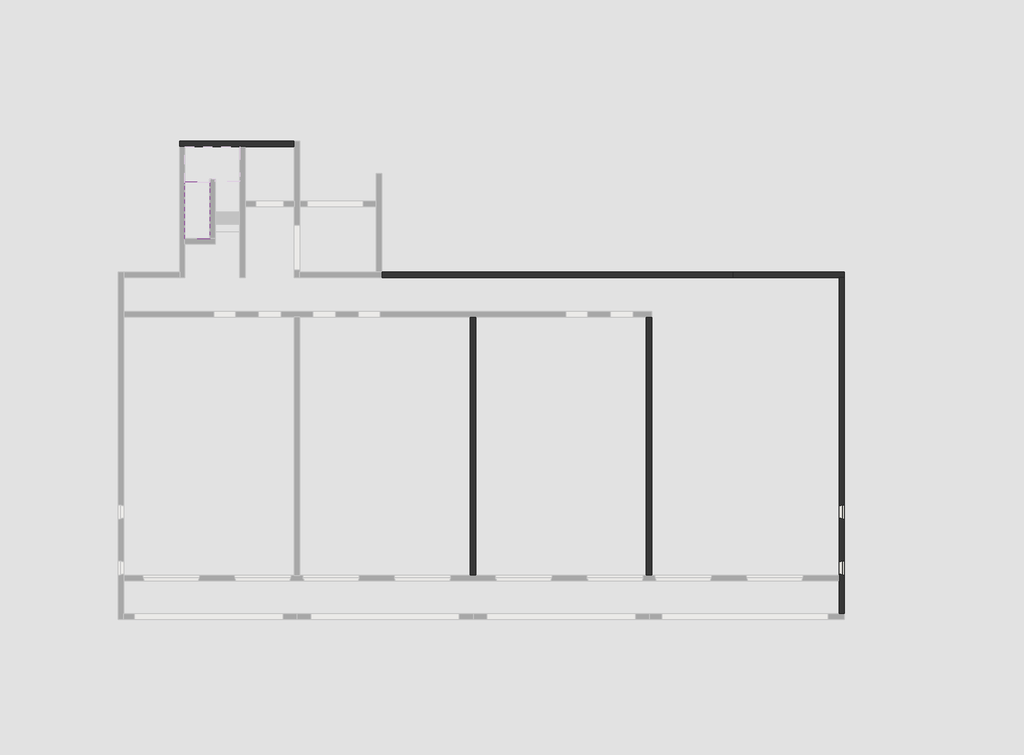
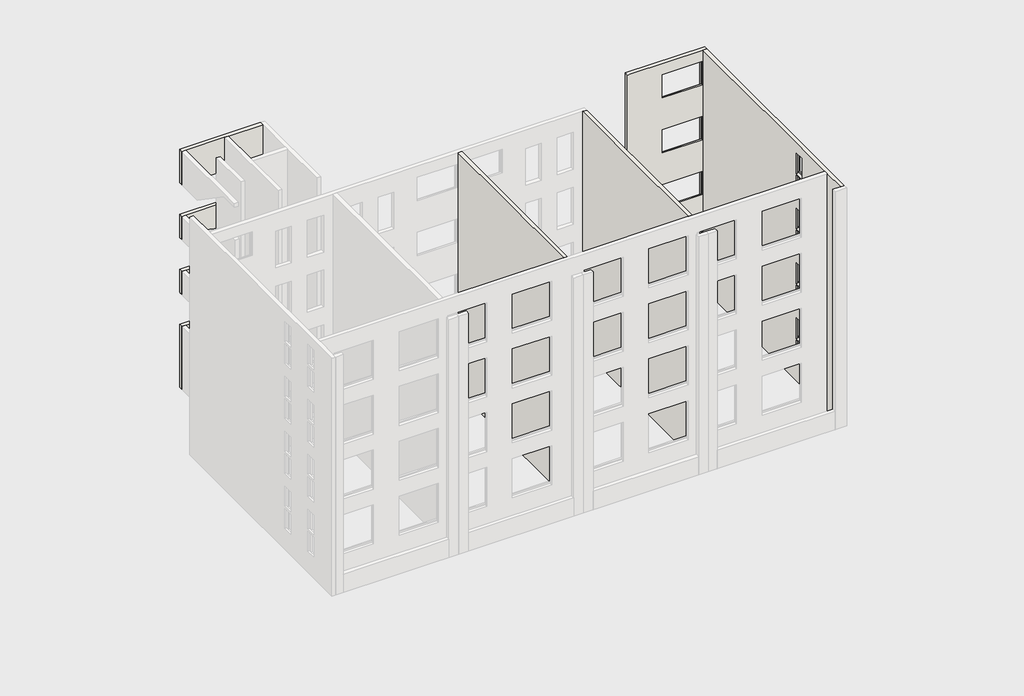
# One storey, part 4 of 5: 6 walls, 1 stair flight.
"""IFC4 building model written with IfcOpenShell, lengths in millimetres."""

from ifc_helpers import new_model, si_unit, frame, origin, origin_with_axes, place, context, project, spatial, polyline, outline, extrude, faceted_brep, element, save

model = new_model("IFC4")

# Units and contexts
model_context = context("Model", 3, world=origin())
ifc_project = project(units=[si_unit("LENGTHUNIT", "METRE", prefix="MILLI")], contexts=[model_context])

# Site, building, storey
site = spatial("IfcSite", under=ifc_project)
building = spatial("IfcBuilding", under=site)
storey = spatial("IfcBuildingStorey", under=building, Name="設計GL", Elevation=0.0)

# Stair flight
placement = place(None, origin())
element("IfcStairFlight", 1, ObjectType="30 mm 踏み板 30 mm 蹴込み板", at=placement, inside=storey, context=model_context, shape_type="SolidModel", body=[
    faceted_brep([(-7928.7187246, -870.1171638, 2508.2352941), (-8828.7187246, -870.1171638, 2508.2352941), (-8828.7187246, -916.2145243, 2508.2352941), (-8828.7187246, -1130.1171638, 2508.2352941), (-7928.7187246, -1130.1171638, 2508.2352941), (-7928.7187246, -916.2145243, 2508.2352941), (-7928.7187246, -1130.1171638, 2326.9474929), (-7928.7187246, -916.2145243, 2181.7647059), (-7928.7187246, -870.1171638, 2181.7647059), (-7928.7187246, -870.1171638, 2331.7647059), (-8828.7187246, -870.1171638, 2181.7647059), (-8828.7187246, -870.1171638, 2331.7647059), (-8828.7187246, -916.2145243, 2181.7647059), (-8828.7187246, -1130.1171638, 2326.9474929), (-7928.7187246, -1390.1171638, 2684.7058824), (-7928.7187246, -1130.1171638, 2684.7058824), (-8828.7187246, -1130.1171638, 2684.7058824), (-8828.7187246, -1390.1171638, 2684.7058824), (-7928.7187246, -1390.1171638, 2503.4180811), (-8828.7187246, -1390.1171638, 2503.4180811), (-7928.7187246, -1650.1171638, 2861.1764706), (-7928.7187246, -1390.1171638, 2861.1764706), (-8828.7187246, -1390.1171638, 2861.1764706), (-8828.7187246, -1650.1171638, 2861.1764706), (-7928.7187246, -1650.1171638, 2679.8886693), (-8828.7187246, -1650.1171638, 2679.8886693), (-7928.7187246, -1910.1171638, 3037.6470588), (-7928.7187246, -1650.1171638, 3037.6470588), (-8828.7187246, -1650.1171638, 3037.6470588), (-8828.7187246, -1910.1171638, 3037.6470588), (-7928.7187246, -1910.1171638, 2856.3592576), (-8828.7187246, -1910.1171638, 2856.3592576), (-7928.7187246, -2170.1171638, 3214.1176471), (-7928.7187246, -1910.1171638, 3214.1176471), (-8828.7187246, -1910.1171638, 3214.1176471), (-8828.7187246, -2170.1171638, 3214.1176471), (-7928.7187246, -2170.1171638, 3032.8298458), (-8828.7187246, -2170.1171638, 3032.8298458), (-7928.7187246, -2430.1171638, 3390.5882353), (-7928.7187246, -2170.1171638, 3390.5882353), (-8828.7187246, -2170.1171638, 3390.5882353), (-8828.7187246, -2430.1171638, 3390.5882353), (-7928.7187246, -2430.1171638, 3209.300434), (-8828.7187246, -2430.1171638, 3209.300434), (-7928.7187246, -2690.1171638, 3567.0588235), (-7928.7187246, -2430.1171638, 3567.0588235), (-8828.7187246, -2430.1171638, 3567.0588235), (-8828.7187246, -2690.1171638, 3567.0588235), (-7928.7187246, -2690.1171638, 3385.7710223), (-8828.7187246, -2690.1171638, 3385.7710223), (-7928.7187246, -2950.1171638, 3743.5294118), (-7928.7187246, -2690.1171638, 3743.5294118), (-8828.7187246, -2690.1171638, 3743.5294118), (-8828.7187246, -2950.1171638, 3743.5294118), (-7928.7187246, -2950.1171638, 3562.2416105), (-8828.7187246, -2950.1171638, 3562.2416105)], [[[0, 1, 2, 3, 4, 5]], [[4, 6, 7, 8, 9, 0, 5]], [[1, 0, 9, 8, 10, 11]], [[1, 11, 10, 12, 13, 3, 2]], [[14, 15, 16, 17]], [[15, 14, 18, 6, 4]], [[16, 15, 4, 3]], [[17, 16, 3, 13, 19]], [[20, 21, 22, 23]], [[21, 20, 24, 18, 14]], [[22, 21, 14, 17]], [[23, 22, 17, 19, 25]], [[26, 27, 28, 29]], [[27, 26, 30, 24, 20]], [[28, 27, 20, 23]], [[29, 28, 23, 25, 31]], [[32, 33, 34, 35]], [[33, 32, 36, 30, 26]], [[34, 33, 26, 29]], [[35, 34, 29, 31, 37]], [[38, 39, 40, 41]], [[39, 38, 42, 36, 32]], [[40, 39, 32, 35]], [[41, 40, 35, 37, 43]], [[44, 45, 46, 47]], [[45, 44, 48, 42, 38]], [[46, 45, 38, 41]], [[47, 46, 41, 43, 49]], [[50, 51, 52, 53]], [[51, 50, 54, 48, 44]], [[52, 51, 44, 47]], [[53, 52, 47, 49, 55]], [[50, 53, 55, 54]], [[12, 7, 6, 18, 24, 30, 36, 42, 48, 54, 55, 49, 43, 37, 31, 25, 19, 13]], [[7, 12, 10, 8]]]),
    extrude(outline(polyline([(-8828.7187246, -870.1171638), (-8828.7187246, -840.1171638), (-7928.7187246, -840.1171638), (-7928.7187246, -870.1171638), (-8828.7187246, -870.1171638)])), frame((0.0, 0.0, 2361.7647059), z_axis=(0.0, 0.0, 1.0), x_axis=(1.0, 0.0, 0.0)), (0.0, 0.0, 1.0), 146.4705882),
    extrude(outline(polyline([(-7928.7187246, -1130.1171638), (-8828.7187246, -1130.1171638), (-8828.7187246, -840.1171638), (-7928.7187246, -840.1171638), (-7928.7187246, -1130.1171638)])), frame((0.0, 0.0, 2508.2352941), z_axis=(0.0, 0.0, 1.0), x_axis=(1.0, 0.0, 0.0)), (0.0, 0.0, 1.0), 30.0),
    extrude(outline(polyline([(-8828.7187246, -1130.1171638), (-8828.7187246, -1100.1171638), (-7928.7187246, -1100.1171638), (-7928.7187246, -1130.1171638), (-8828.7187246, -1130.1171638)])), frame((0.0, 0.0, 2538.2352941), z_axis=(0.0, 0.0, 1.0), x_axis=(1.0, 0.0, 0.0)), (0.0, 0.0, 1.0), 146.4705882),
    extrude(outline(polyline([(-7928.7187246, -1390.1171638), (-8828.7187246, -1390.1171638), (-8828.7187246, -1100.1171638), (-7928.7187246, -1100.1171638), (-7928.7187246, -1390.1171638)])), frame((0.0, 0.0, 2684.7058824), z_axis=(0.0, 0.0, 1.0), x_axis=(1.0, 0.0, 0.0)), (0.0, 0.0, 1.0), 30.0),
    extrude(outline(polyline([(-8828.7187246, -1390.1171638), (-8828.7187246, -1360.1171638), (-7928.7187246, -1360.1171638), (-7928.7187246, -1390.1171638), (-8828.7187246, -1390.1171638)])), frame((0.0, 0.0, 2714.7058824), z_axis=(0.0, 0.0, 1.0), x_axis=(1.0, 0.0, 0.0)), (0.0, 0.0, 1.0), 146.4705882),
    extrude(outline(polyline([(-7928.7187246, -1650.1171638), (-8828.7187246, -1650.1171638), (-8828.7187246, -1360.1171638), (-7928.7187246, -1360.1171638), (-7928.7187246, -1650.1171638)])), frame((0.0, 0.0, 2861.1764706), z_axis=(0.0, 0.0, 1.0), x_axis=(1.0, 0.0, 0.0)), (0.0, 0.0, 1.0), 30.0),
    extrude(outline(polyline([(-8828.7187246, -1650.1171638), (-8828.7187246, -1620.1171638), (-7928.7187246, -1620.1171638), (-7928.7187246, -1650.1171638), (-8828.7187246, -1650.1171638)])), frame((0.0, 0.0, 2891.1764706), z_axis=(0.0, 0.0, 1.0), x_axis=(1.0, 0.0, 0.0)), (0.0, 0.0, 1.0), 146.4705882),
    extrude(outline(polyline([(-7928.7187246, -1910.1171638), (-8828.7187246, -1910.1171638), (-8828.7187246, -1620.1171638), (-7928.7187246, -1620.1171638), (-7928.7187246, -1910.1171638)])), frame((0.0, 0.0, 3037.6470588), z_axis=(0.0, 0.0, 1.0), x_axis=(1.0, 0.0, 0.0)), (0.0, 0.0, 1.0), 30.0),
    extrude(outline(polyline([(-8828.7187246, -1910.1171638), (-8828.7187246, -1880.1171638), (-7928.7187246, -1880.1171638), (-7928.7187246, -1910.1171638), (-8828.7187246, -1910.1171638)])), frame((0.0, 0.0, 3067.6470588), z_axis=(0.0, 0.0, 1.0), x_axis=(1.0, 0.0, 0.0)), (0.0, 0.0, 1.0), 146.4705882),
    extrude(outline(polyline([(-7928.7187246, -2170.1171638), (-8828.7187246, -2170.1171638), (-8828.7187246, -1880.1171638), (-7928.7187246, -1880.1171638), (-7928.7187246, -2170.1171638)])), frame((0.0, 0.0, 3214.1176471), z_axis=(0.0, 0.0, 1.0), x_axis=(1.0, 0.0, 0.0)), (0.0, 0.0, 1.0), 30.0),
    extrude(outline(polyline([(-8828.7187246, -2170.1171638), (-8828.7187246, -2140.1171638), (-7928.7187246, -2140.1171638), (-7928.7187246, -2170.1171638), (-8828.7187246, -2170.1171638)])), frame((0.0, 0.0, 3244.1176471), z_axis=(0.0, 0.0, 1.0), x_axis=(1.0, 0.0, 0.0)), (0.0, 0.0, 1.0), 146.4705882),
    extrude(outline(polyline([(-7928.7187246, -2430.1171638), (-8828.7187246, -2430.1171638), (-8828.7187246, -2140.1171638), (-7928.7187246, -2140.1171638), (-7928.7187246, -2430.1171638)])), frame((0.0, 0.0, 3390.5882353), z_axis=(0.0, 0.0, 1.0), x_axis=(1.0, 0.0, 0.0)), (0.0, 0.0, 1.0), 30.0),
    extrude(outline(polyline([(-8828.7187246, -2430.1171638), (-8828.7187246, -2400.1171638), (-7928.7187246, -2400.1171638), (-7928.7187246, -2430.1171638), (-8828.7187246, -2430.1171638)])), frame((0.0, 0.0, 3420.5882353), z_axis=(0.0, 0.0, 1.0), x_axis=(1.0, 0.0, 0.0)), (0.0, 0.0, 1.0), 146.4705882),
    extrude(outline(polyline([(-7928.7187246, -2690.1171638), (-8828.7187246, -2690.1171638), (-8828.7187246, -2400.1171638), (-7928.7187246, -2400.1171638), (-7928.7187246, -2690.1171638)])), frame((0.0, 0.0, 3567.0588235), z_axis=(0.0, 0.0, 1.0), x_axis=(1.0, 0.0, 0.0)), (0.0, 0.0, 1.0), 30.0),
    extrude(outline(polyline([(-8828.7187246, -2690.1171638), (-8828.7187246, -2660.1171638), (-7928.7187246, -2660.1171638), (-7928.7187246, -2690.1171638), (-8828.7187246, -2690.1171638)])), frame((0.0, 0.0, 3597.0588235), z_axis=(0.0, 0.0, 1.0), x_axis=(1.0, 0.0, 0.0)), (0.0, 0.0, 1.0), 146.4705882),
    extrude(outline(polyline([(-8828.7187246, -2950.1171638), (-8828.7187246, -2920.1171638), (-7928.7187246, -2920.1171638), (-7928.7187246, -2950.1171638), (-8828.7187246, -2950.1171638)])), frame((0.0, 0.0, 3773.5294118), z_axis=(0.0, 0.0, 1.0), x_axis=(1.0, 0.0, 0.0)), (0.0, 0.0, 1.0), 146.4705882),
    extrude(outline(polyline([(-7928.7187246, -2950.1171638), (-8828.7187246, -2950.1171638), (-8828.7187246, -2660.1171638), (-7928.7187246, -2660.1171638), (-7928.7187246, -2950.1171638)])), frame((0.0, 0.0, 3743.5294118), z_axis=(0.0, 0.0, 1.0), x_axis=(1.0, 0.0, 0.0)), (0.0, 0.0, 1.0), 30.0),
])

# Walls
element("IfcWall", 2, ObjectType="(R)RC200", at=placement, inside=storey, context=model_context, shape_type="Brep", body=[
    faceted_brep([(8271.2812754, -15270.1171638, -1200.0), (8271.2812754, -5800.1171638, -1200.0), (8271.2812754, -5800.1171638, 13000.0), (8271.2812754, -9720.1171638, 13000.0), (8271.2812754, -9920.1171638, 13000.0), (8271.2812754, -15270.1171638, 13000.0), (8071.2812754, -15270.1171638, -1200.0), (8071.2812754, -15270.1171638, 13000.0), (8071.2812754, -9920.1171638, 13000.0), (8071.2812754, -9720.1171638, 13000.0), (8071.2812754, -5800.1171638, 13000.0), (8071.2812754, -5800.1171638, -1200.0)], [[[0, 1, 2, 3, 4, 5]], [[6, 7, 8, 9, 10, 11]], [[1, 0, 6, 11]], [[5, 4, 3, 2, 10, 9, 8, 7]], [[0, 5, 7, 6]], [[1, 11, 10, 2]]]),
])
element("IfcWall", 3, ObjectType="(R)RC200", at=placement, inside=storey, context=model_context, shape_type="Brep", body=[
    faceted_brep([(11221.2812754, -4350.1171638, -1200.0), (15121.2812754, -4350.1171638, -1200.0), (15321.2812754, -4350.1171638, -1200.0), (15321.2812754, -4350.1171638, 13000.0), (15121.2812754, -4350.1171638, 13000.0), (11421.2812754, -4350.1171638, 13000.0), (11221.2812754, -4350.1171638, 13000.0), (11221.2812754, -4350.1171638, 11100.0), (11221.2812754, -4350.1171638, 9800.0), (11221.2812754, -4350.1171638, 8100.0), (11221.2812754, -4350.1171638, 6800.0), (11221.2812754, -4350.1171638, 5100.0), (11221.2812754, -4350.1171638, 3800.0), (11221.2812754, -4350.1171638, 2100.0), (11221.2812754, -4350.1171638, 0.0), (11221.2812754, -4350.1171638, -200.0), (15111.2812754, -4350.1171638, 3385.0), (15111.2812754, -4350.1171638, 2115.0), (13031.2812754, -4350.1171638, 2115.0), (13031.2812754, -4350.1171638, 3385.0), (15111.2812754, -4350.1171638, 6385.0), (15111.2812754, -4350.1171638, 5115.0), (13031.2812754, -4350.1171638, 5115.0), (13031.2812754, -4350.1171638, 6385.0), (15111.2812754, -4350.1171638, 9385.0), (15111.2812754, -4350.1171638, 8115.0), (13031.2812754, -4350.1171638, 8115.0), (13031.2812754, -4350.1171638, 9385.0), (15111.2812754, -4350.1171638, 12385.0), (15111.2812754, -4350.1171638, 11115.0), (13031.2812754, -4350.1171638, 11115.0), (13031.2812754, -4350.1171638, 12385.0), (11221.2812754, -4150.1171638, -1200.0), (11221.2812754, -4150.1171638, 0.0), (11221.2812754, -4150.1171638, 2100.0), (11221.2812754, -4150.1171638, 3800.0), (11221.2812754, -4150.1171638, 5100.0), (11221.2812754, -4150.1171638, 6800.0), (11221.2812754, -4150.1171638, 8100.0), (11221.2812754, -4150.1171638, 9800.0), (11221.2812754, -4150.1171638, 11100.0), (11221.2812754, -4150.1171638, 13000.0), (15321.2812754, -4150.1171638, 13000.0), (15321.2812754, -4150.1171638, -1200.0), (13061.2812754, -4150.1171638, 2025.0), (15081.2812754, -4150.1171638, 2025.0), (15081.2812754, -4150.1171638, 3360.0), (13061.2812754, -4150.1171638, 3360.0), (13061.2812754, -4150.1171638, 5025.0), (15081.2812754, -4150.1171638, 5025.0), (15081.2812754, -4150.1171638, 6360.0), (13061.2812754, -4150.1171638, 6360.0), (13061.2812754, -4150.1171638, 8025.0), (15081.2812754, -4150.1171638, 8025.0), (15081.2812754, -4150.1171638, 9360.0), (13061.2812754, -4150.1171638, 9360.0), (13061.2812754, -4150.1171638, 11025.0), (15081.2812754, -4150.1171638, 11025.0), (15081.2812754, -4150.1171638, 12360.0), (13061.2812754, -4150.1171638, 12360.0), (15111.2812754, -4280.1171638, 3385.0), (15111.2812754, -4280.1171638, 2115.0), (13031.2812754, -4280.1171638, 2115.0), (13031.2812754, -4280.1171638, 3385.0), (15101.2812754, -4280.1171638, 2115.0), (13041.2812754, -4280.1171638, 2115.0), (13041.2812754, -4280.1171638, 3380.0), (15101.2812754, -4280.1171638, 3380.0), (15101.2812754, -4210.1171638, 3380.0), (15101.2812754, -4210.1171638, 2034.2307692), (15101.2812754, -4280.1171638, 2045.0), (13041.2812754, -4280.1171638, 2045.0), (13041.2812754, -4210.1171638, 2034.2307692), (13041.2812754, -4210.1171638, 3380.0), (15081.2812754, -4210.1171638, 2034.2307692), (13061.2812754, -4210.1171638, 2034.2307692), (13061.2812754, -4210.1171638, 3360.0), (15081.2812754, -4210.1171638, 3360.0), (15111.2812754, -4280.1171638, 6385.0), (15111.2812754, -4280.1171638, 5115.0), (13031.2812754, -4280.1171638, 5115.0), (13031.2812754, -4280.1171638, 6385.0), (15101.2812754, -4280.1171638, 5115.0), (13041.2812754, -4280.1171638, 5115.0), (13041.2812754, -4280.1171638, 6380.0), (15101.2812754, -4280.1171638, 6380.0), (15101.2812754, -4210.1171638, 6380.0), (15101.2812754, -4210.1171638, 5034.2307692), (15101.2812754, -4280.1171638, 5045.0), (13041.2812754, -4280.1171638, 5045.0), (13041.2812754, -4210.1171638, 5034.2307692), (13041.2812754, -4210.1171638, 6380.0), (15081.2812754, -4210.1171638, 5034.2307692), (13061.2812754, -4210.1171638, 5034.2307692), (13061.2812754, -4210.1171638, 6360.0), (15081.2812754, -4210.1171638, 6360.0), (15111.2812754, -4280.1171638, 9385.0), (15111.2812754, -4280.1171638, 8115.0), (13031.2812754, -4280.1171638, 8115.0), (13031.2812754, -4280.1171638, 9385.0), (15101.2812754, -4280.1171638, 8115.0), (13041.2812754, -4280.1171638, 8115.0), (13041.2812754, -4280.1171638, 9380.0), (15101.2812754, -4280.1171638, 9380.0), (15101.2812754, -4210.1171638, 9380.0), (15101.2812754, -4210.1171638, 8034.2307692), (15101.2812754, -4280.1171638, 8045.0), (13041.2812754, -4280.1171638, 8045.0), (13041.2812754, -4210.1171638, 8034.2307692), (13041.2812754, -4210.1171638, 9380.0), (15081.2812754, -4210.1171638, 8034.2307692), (13061.2812754, -4210.1171638, 8034.2307692), (13061.2812754, -4210.1171638, 9360.0), (15081.2812754, -4210.1171638, 9360.0), (15111.2812754, -4280.1171638, 12385.0), (15111.2812754, -4280.1171638, 11115.0), (13031.2812754, -4280.1171638, 11115.0), (13031.2812754, -4280.1171638, 12385.0), (15101.2812754, -4280.1171638, 11115.0), (13041.2812754, -4280.1171638, 11115.0), (13041.2812754, -4280.1171638, 12380.0), (15101.2812754, -4280.1171638, 12380.0), (15101.2812754, -4210.1171638, 12380.0), (15101.2812754, -4210.1171638, 11034.2307692), (15101.2812754, -4280.1171638, 11045.0), (13041.2812754, -4280.1171638, 11045.0), (13041.2812754, -4210.1171638, 11034.2307692), (13041.2812754, -4210.1171638, 12380.0), (15081.2812754, -4210.1171638, 11034.2307692), (13061.2812754, -4210.1171638, 11034.2307692), (13061.2812754, -4210.1171638, 12360.0), (15081.2812754, -4210.1171638, 12360.0)], [[[0, 1, 2, 3, 4, 5, 6, 7, 8, 9, 10, 11, 12, 13, 14, 15], [16, 17, 18, 19], [20, 21, 22, 23], [24, 25, 26, 27], [28, 29, 30, 31]], [[32, 33, 34, 35, 36, 37, 38, 39, 40, 41, 42, 43], [44, 45, 46, 47], [48, 49, 50, 51], [52, 53, 54, 55], [56, 57, 58, 59]], [[2, 1, 0, 32, 43]], [[6, 5, 4, 3, 42, 41]], [[3, 2, 43, 42]], [[60, 61, 17, 16]], [[62, 63, 19, 18]], [[17, 61, 64, 65, 62, 18]], [[61, 60, 63, 62, 65, 66, 67, 64]], [[63, 60, 16, 19]], [[67, 68, 69, 70, 64]], [[71, 72, 73, 66, 65]], [[70, 69, 74, 45, 44, 75, 72, 71]], [[69, 68, 73, 72, 75, 76, 77, 74]], [[68, 67, 66, 73]], [[70, 71, 65, 64]], [[77, 46, 45, 74]], [[75, 44, 47, 76]], [[46, 77, 76, 47]], [[78, 79, 21, 20]], [[80, 81, 23, 22]], [[21, 79, 82, 83, 80, 22]], [[79, 78, 81, 80, 83, 84, 85, 82]], [[81, 78, 20, 23]], [[85, 86, 87, 88, 82]], [[89, 90, 91, 84, 83]], [[88, 87, 92, 49, 48, 93, 90, 89]], [[87, 86, 91, 90, 93, 94, 95, 92]], [[86, 85, 84, 91]], [[88, 89, 83, 82]], [[95, 50, 49, 92]], [[93, 48, 51, 94]], [[50, 95, 94, 51]], [[96, 97, 25, 24]], [[98, 99, 27, 26]], [[25, 97, 100, 101, 98, 26]], [[97, 96, 99, 98, 101, 102, 103, 100]], [[99, 96, 24, 27]], [[103, 104, 105, 106, 100]], [[107, 108, 109, 102, 101]], [[106, 105, 110, 53, 52, 111, 108, 107]], [[105, 104, 109, 108, 111, 112, 113, 110]], [[104, 103, 102, 109]], [[106, 107, 101, 100]], [[113, 54, 53, 110]], [[111, 52, 55, 112]], [[54, 113, 112, 55]], [[114, 115, 29, 28]], [[116, 117, 31, 30]], [[29, 115, 118, 119, 116, 30]], [[115, 114, 117, 116, 119, 120, 121, 118]], [[117, 114, 28, 31]], [[121, 122, 123, 124, 118]], [[125, 126, 127, 120, 119]], [[124, 123, 128, 57, 56, 129, 126, 125]], [[123, 122, 127, 126, 129, 130, 131, 128]], [[122, 121, 120, 127]], [[124, 125, 119, 118]], [[131, 58, 57, 128]], [[129, 56, 59, 130]], [[58, 131, 130, 59]], [[0, 15, 14, 33, 32]], [[6, 41, 40, 39, 38, 37, 36, 35, 34, 33, 14, 13, 12, 11, 10, 9, 8, 7]]]),
])
element("IfcWall", 4, ObjectType="(R)RC200", at=placement, inside=storey, context=model_context, shape_type="Brep", body=[
    faceted_brep([(15121.2812754, -4350.1171638, -1200.0), (15121.2812754, -15270.1171638, -1200.0), (15121.2812754, -15470.1171638, -1200.0), (15121.2812754, -16670.1171638, -1200.0), (15121.2812754, -16670.1171638, 13000.0), (15121.2812754, -15470.1171638, 13000.0), (15121.2812754, -15270.1171638, 13000.0), (15121.2812754, -9920.1171638, 13000.0), (15121.2812754, -9720.1171638, 13000.0), (15121.2812754, -4350.1171638, 13000.0), (15121.2812754, -13180.1171638, 2305.0), (15121.2812754, -12710.1171638, 2305.0), (15121.2812754, -12710.1171638, 3440.0), (15121.2812754, -13180.1171638, 3440.0), (15121.2812754, -15230.1171638, 2305.0), (15121.2812754, -14760.1171638, 2305.0), (15121.2812754, -14760.1171638, 3440.0), (15121.2812754, -15230.1171638, 3440.0), (15121.2812754, -13180.1171638, 1085.0), (15121.2812754, -12710.1171638, 1085.0), (15121.2812754, -12710.1171638, 2220.0), (15121.2812754, -13180.1171638, 2220.0), (15121.2812754, -15230.1171638, 1085.0), (15121.2812754, -14760.1171638, 1085.0), (15121.2812754, -14760.1171638, 2220.0), (15121.2812754, -15230.1171638, 2220.0), (15121.2812754, -13180.1171638, 5305.0), (15121.2812754, -12710.1171638, 5305.0), (15121.2812754, -12710.1171638, 6440.0), (15121.2812754, -13180.1171638, 6440.0), (15121.2812754, -15230.1171638, 5305.0), (15121.2812754, -14760.1171638, 5305.0), (15121.2812754, -14760.1171638, 6440.0), (15121.2812754, -15230.1171638, 6440.0), (15121.2812754, -13180.1171638, 4085.0), (15121.2812754, -12710.1171638, 4085.0), (15121.2812754, -12710.1171638, 5220.0), (15121.2812754, -13180.1171638, 5220.0), (15121.2812754, -15230.1171638, 4085.0), (15121.2812754, -14760.1171638, 4085.0), (15121.2812754, -14760.1171638, 5220.0), (15121.2812754, -15230.1171638, 5220.0), (15121.2812754, -13180.1171638, 8305.0), (15121.2812754, -12710.1171638, 8305.0), (15121.2812754, -12710.1171638, 9440.0), (15121.2812754, -13180.1171638, 9440.0), (15121.2812754, -15230.1171638, 8305.0), (15121.2812754, -14760.1171638, 8305.0), (15121.2812754, -14760.1171638, 9440.0), (15121.2812754, -15230.1171638, 9440.0), (15121.2812754, -13180.1171638, 7085.0), (15121.2812754, -12710.1171638, 7085.0), (15121.2812754, -12710.1171638, 8220.0), (15121.2812754, -13180.1171638, 8220.0), (15121.2812754, -15230.1171638, 7085.0), (15121.2812754, -14760.1171638, 7085.0), (15121.2812754, -14760.1171638, 8220.0), (15121.2812754, -15230.1171638, 8220.0), (15121.2812754, -13180.1171638, 11305.0), (15121.2812754, -12710.1171638, 11305.0), (15121.2812754, -12710.1171638, 12440.0), (15121.2812754, -13180.1171638, 12440.0), (15121.2812754, -15230.1171638, 11305.0), (15121.2812754, -14760.1171638, 11305.0), (15121.2812754, -14760.1171638, 12440.0), (15121.2812754, -15230.1171638, 12440.0), (15121.2812754, -13180.1171638, 10085.0), (15121.2812754, -12710.1171638, 10085.0), (15121.2812754, -12710.1171638, 11220.0), (15121.2812754, -13180.1171638, 11220.0), (15121.2812754, -15230.1171638, 10085.0), (15121.2812754, -14760.1171638, 10085.0), (15121.2812754, -14760.1171638, 11220.0), (15121.2812754, -15230.1171638, 11220.0), (15321.2812754, -4350.1171638, -1200.0), (15321.2812754, -4350.1171638, 13000.0), (15321.2812754, -16670.1171638, 13000.0), (15321.2812754, -16670.1171638, -1200.0), (15321.2812754, -12680.1171638, 3465.0), (15321.2812754, -12680.1171638, 2395.0), (15321.2812754, -13210.1171638, 2395.0), (15321.2812754, -13210.1171638, 3465.0), (15321.2812754, -14730.1171638, 3465.0), (15321.2812754, -14730.1171638, 2395.0), (15321.2812754, -15260.1171638, 2395.0), (15321.2812754, -15260.1171638, 3465.0), (15321.2812754, -13210.1171638, 1175.0), (15321.2812754, -13210.1171638, 2245.0), (15321.2812754, -12680.1171638, 2245.0), (15321.2812754, -12680.1171638, 1175.0), (15321.2812754, -15260.1171638, 1175.0), (15321.2812754, -15260.1171638, 2245.0), (15321.2812754, -14730.1171638, 2245.0), (15321.2812754, -14730.1171638, 1175.0), (15321.2812754, -12680.1171638, 6465.0), (15321.2812754, -12680.1171638, 5395.0), (15321.2812754, -13210.1171638, 5395.0), (15321.2812754, -13210.1171638, 6465.0), (15321.2812754, -14730.1171638, 6465.0), (15321.2812754, -14730.1171638, 5395.0), (15321.2812754, -15260.1171638, 5395.0), (15321.2812754, -15260.1171638, 6465.0), (15321.2812754, -13210.1171638, 4175.0), (15321.2812754, -13210.1171638, 5245.0), (15321.2812754, -12680.1171638, 5245.0), (15321.2812754, -12680.1171638, 4175.0), (15321.2812754, -15260.1171638, 4175.0), (15321.2812754, -15260.1171638, 5245.0), (15321.2812754, -14730.1171638, 5245.0), (15321.2812754, -14730.1171638, 4175.0), (15321.2812754, -12680.1171638, 9465.0), (15321.2812754, -12680.1171638, 8395.0), (15321.2812754, -13210.1171638, 8395.0), (15321.2812754, -13210.1171638, 9465.0), (15321.2812754, -14730.1171638, 9465.0), (15321.2812754, -14730.1171638, 8395.0), (15321.2812754, -15260.1171638, 8395.0), (15321.2812754, -15260.1171638, 9465.0), (15321.2812754, -13210.1171638, 7175.0), (15321.2812754, -13210.1171638, 8245.0), (15321.2812754, -12680.1171638, 8245.0), (15321.2812754, -12680.1171638, 7175.0), (15321.2812754, -15260.1171638, 7175.0), (15321.2812754, -15260.1171638, 8245.0), (15321.2812754, -14730.1171638, 8245.0), (15321.2812754, -14730.1171638, 7175.0), (15321.2812754, -12680.1171638, 12465.0), (15321.2812754, -12680.1171638, 11395.0), (15321.2812754, -13210.1171638, 11395.0), (15321.2812754, -13210.1171638, 12465.0), (15321.2812754, -14730.1171638, 12465.0), (15321.2812754, -14730.1171638, 11395.0), (15321.2812754, -15260.1171638, 11395.0), (15321.2812754, -15260.1171638, 12465.0), (15321.2812754, -13210.1171638, 10175.0), (15321.2812754, -13210.1171638, 11245.0), (15321.2812754, -12680.1171638, 11245.0), (15321.2812754, -12680.1171638, 10175.0), (15321.2812754, -15260.1171638, 10175.0), (15321.2812754, -15260.1171638, 11245.0), (15321.2812754, -14730.1171638, 11245.0), (15321.2812754, -14730.1171638, 10175.0), (15251.2812754, -12680.1171638, 3465.0), (15251.2812754, -12680.1171638, 2395.0), (15251.2812754, -13210.1171638, 2395.0), (15251.2812754, -13210.1171638, 3465.0), (15251.2812754, -12690.1171638, 2395.0), (15251.2812754, -13200.1171638, 2395.0), (15251.2812754, -13200.1171638, 3460.0), (15251.2812754, -12690.1171638, 3460.0), (15181.2812754, -12690.1171638, 3460.0), (15181.2812754, -12690.1171638, 2314.2307692), (15251.2812754, -12690.1171638, 2325.0), (15251.2812754, -13200.1171638, 2325.0), (15181.2812754, -13200.1171638, 2314.2307692), (15181.2812754, -13200.1171638, 3460.0), (15181.2812754, -12710.1171638, 2314.2307692), (15181.2812754, -13180.1171638, 2314.2307692), (15181.2812754, -13180.1171638, 3440.0), (15181.2812754, -12710.1171638, 3440.0), (15251.2812754, -14730.1171638, 3465.0), (15251.2812754, -14730.1171638, 2395.0), (15251.2812754, -15260.1171638, 2395.0), (15251.2812754, -15260.1171638, 3465.0), (15251.2812754, -14740.1171638, 2395.0), (15251.2812754, -15250.1171638, 2395.0), (15251.2812754, -15250.1171638, 3460.0), (15251.2812754, -14740.1171638, 3460.0), (15181.2812754, -14740.1171638, 3460.0), (15181.2812754, -14740.1171638, 2314.2307692), (15251.2812754, -14740.1171638, 2325.0), (15251.2812754, -15250.1171638, 2325.0), (15181.2812754, -15250.1171638, 2314.2307692), (15181.2812754, -15250.1171638, 3460.0), (15181.2812754, -14760.1171638, 2314.2307692), (15181.2812754, -15230.1171638, 2314.2307692), (15181.2812754, -15230.1171638, 3440.0), (15181.2812754, -14760.1171638, 3440.0), (15251.2812754, -13210.1171638, 2245.0), (15251.2812754, -13210.1171638, 1175.0), (15251.2812754, -12680.1171638, 1175.0), (15251.2812754, -12680.1171638, 2245.0), (15251.2812754, -12690.1171638, 1175.0), (15251.2812754, -13200.1171638, 1175.0), (15251.2812754, -13200.1171638, 2240.0), (15251.2812754, -12690.1171638, 2240.0), (15251.2812754, -13200.1171638, 1105.0), (15181.2812754, -13200.1171638, 1094.2307692), (15181.2812754, -13200.1171638, 2240.0), (15251.2812754, -12690.1171638, 1105.0), (15181.2812754, -12690.1171638, 2240.0), (15181.2812754, -12690.1171638, 1094.2307692), (15181.2812754, -12710.1171638, 1094.2307692), (15181.2812754, -13180.1171638, 1094.2307692), (15181.2812754, -13180.1171638, 2220.0), (15181.2812754, -12710.1171638, 2220.0), (15251.2812754, -15260.1171638, 2245.0), (15251.2812754, -15260.1171638, 1175.0), (15251.2812754, -14730.1171638, 1175.0), (15251.2812754, -14730.1171638, 2245.0), (15251.2812754, -14740.1171638, 1175.0), (15251.2812754, -15250.1171638, 1175.0), (15251.2812754, -15250.1171638, 2240.0), (15251.2812754, -14740.1171638, 2240.0), (15251.2812754, -15250.1171638, 1105.0), (15181.2812754, -15250.1171638, 1094.2307692), (15181.2812754, -15250.1171638, 2240.0), (15251.2812754, -14740.1171638, 1105.0), (15181.2812754, -14740.1171638, 2240.0), (15181.2812754, -14740.1171638, 1094.2307692), (15181.2812754, -14760.1171638, 1094.2307692), (15181.2812754, -15230.1171638, 1094.2307692), (15181.2812754, -15230.1171638, 2220.0), (15181.2812754, -14760.1171638, 2220.0), (15251.2812754, -12680.1171638, 6465.0), (15251.2812754, -12680.1171638, 5395.0), (15251.2812754, -13210.1171638, 5395.0), (15251.2812754, -13210.1171638, 6465.0), (15251.2812754, -12690.1171638, 5395.0), (15251.2812754, -13200.1171638, 5395.0), (15251.2812754, -13200.1171638, 6460.0), (15251.2812754, -12690.1171638, 6460.0), (15181.2812754, -12690.1171638, 6460.0), (15181.2812754, -12690.1171638, 5314.2307692), (15251.2812754, -12690.1171638, 5325.0), (15251.2812754, -13200.1171638, 5325.0), (15181.2812754, -13200.1171638, 5314.2307692), (15181.2812754, -13200.1171638, 6460.0), (15181.2812754, -12710.1171638, 5314.2307692), (15181.2812754, -13180.1171638, 5314.2307692), (15181.2812754, -13180.1171638, 6440.0), (15181.2812754, -12710.1171638, 6440.0), (15251.2812754, -14730.1171638, 6465.0), (15251.2812754, -14730.1171638, 5395.0), (15251.2812754, -15260.1171638, 5395.0), (15251.2812754, -15260.1171638, 6465.0), (15251.2812754, -14740.1171638, 5395.0), (15251.2812754, -15250.1171638, 5395.0), (15251.2812754, -15250.1171638, 6460.0), (15251.2812754, -14740.1171638, 6460.0), (15181.2812754, -14740.1171638, 6460.0), (15181.2812754, -14740.1171638, 5314.2307692), (15251.2812754, -14740.1171638, 5325.0), (15251.2812754, -15250.1171638, 5325.0), (15181.2812754, -15250.1171638, 5314.2307692), (15181.2812754, -15250.1171638, 6460.0), (15181.2812754, -14760.1171638, 5314.2307692), (15181.2812754, -15230.1171638, 5314.2307692), (15181.2812754, -15230.1171638, 6440.0), (15181.2812754, -14760.1171638, 6440.0), (15251.2812754, -13210.1171638, 5245.0), (15251.2812754, -13210.1171638, 4175.0), (15251.2812754, -12680.1171638, 4175.0), (15251.2812754, -12680.1171638, 5245.0), (15251.2812754, -12690.1171638, 4175.0), (15251.2812754, -13200.1171638, 4175.0), (15251.2812754, -13200.1171638, 5240.0), (15251.2812754, -12690.1171638, 5240.0), (15251.2812754, -13200.1171638, 4105.0), (15181.2812754, -13200.1171638, 4094.2307692), (15181.2812754, -13200.1171638, 5240.0), (15251.2812754, -12690.1171638, 4105.0), (15181.2812754, -12690.1171638, 5240.0), (15181.2812754, -12690.1171638, 4094.2307692), (15181.2812754, -12710.1171638, 4094.2307692), (15181.2812754, -13180.1171638, 4094.2307692), (15181.2812754, -13180.1171638, 5220.0), (15181.2812754, -12710.1171638, 5220.0), (15251.2812754, -15260.1171638, 5245.0), (15251.2812754, -15260.1171638, 4175.0), (15251.2812754, -14730.1171638, 4175.0), (15251.2812754, -14730.1171638, 5245.0), (15251.2812754, -14740.1171638, 4175.0), (15251.2812754, -15250.1171638, 4175.0), (15251.2812754, -15250.1171638, 5240.0), (15251.2812754, -14740.1171638, 5240.0), (15251.2812754, -15250.1171638, 4105.0), (15181.2812754, -15250.1171638, 4094.2307692), (15181.2812754, -15250.1171638, 5240.0), (15251.2812754, -14740.1171638, 4105.0), (15181.2812754, -14740.1171638, 5240.0), (15181.2812754, -14740.1171638, 4094.2307692), (15181.2812754, -14760.1171638, 4094.2307692), (15181.2812754, -15230.1171638, 4094.2307692), (15181.2812754, -15230.1171638, 5220.0), (15181.2812754, -14760.1171638, 5220.0), (15251.2812754, -12680.1171638, 9465.0), (15251.2812754, -12680.1171638, 8395.0), (15251.2812754, -13210.1171638, 8395.0), (15251.2812754, -13210.1171638, 9465.0), (15251.2812754, -12690.1171638, 8395.0), (15251.2812754, -13200.1171638, 8395.0), (15251.2812754, -13200.1171638, 9460.0), (15251.2812754, -12690.1171638, 9460.0), (15181.2812754, -12690.1171638, 9460.0), (15181.2812754, -12690.1171638, 8314.2307692), (15251.2812754, -12690.1171638, 8325.0), (15251.2812754, -13200.1171638, 8325.0), (15181.2812754, -13200.1171638, 8314.2307692), (15181.2812754, -13200.1171638, 9460.0), (15181.2812754, -12710.1171638, 8314.2307692), (15181.2812754, -13180.1171638, 8314.2307692), (15181.2812754, -13180.1171638, 9440.0), (15181.2812754, -12710.1171638, 9440.0), (15251.2812754, -14730.1171638, 9465.0), (15251.2812754, -14730.1171638, 8395.0), (15251.2812754, -15260.1171638, 8395.0), (15251.2812754, -15260.1171638, 9465.0), (15251.2812754, -14740.1171638, 8395.0), (15251.2812754, -15250.1171638, 8395.0), (15251.2812754, -15250.1171638, 9460.0), (15251.2812754, -14740.1171638, 9460.0), (15181.2812754, -14740.1171638, 9460.0), (15181.2812754, -14740.1171638, 8314.2307692), (15251.2812754, -14740.1171638, 8325.0), (15251.2812754, -15250.1171638, 8325.0), (15181.2812754, -15250.1171638, 8314.2307692), (15181.2812754, -15250.1171638, 9460.0), (15181.2812754, -14760.1171638, 8314.2307692), (15181.2812754, -15230.1171638, 8314.2307692), (15181.2812754, -15230.1171638, 9440.0), (15181.2812754, -14760.1171638, 9440.0), (15251.2812754, -13210.1171638, 8245.0), (15251.2812754, -13210.1171638, 7175.0), (15251.2812754, -12680.1171638, 7175.0), (15251.2812754, -12680.1171638, 8245.0), (15251.2812754, -12690.1171638, 7175.0), (15251.2812754, -13200.1171638, 7175.0), (15251.2812754, -13200.1171638, 8240.0), (15251.2812754, -12690.1171638, 8240.0), (15251.2812754, -13200.1171638, 7105.0), (15181.2812754, -13200.1171638, 7094.2307692), (15181.2812754, -13200.1171638, 8240.0), (15251.2812754, -12690.1171638, 7105.0), (15181.2812754, -12690.1171638, 8240.0), (15181.2812754, -12690.1171638, 7094.2307692), (15181.2812754, -12710.1171638, 7094.2307692), (15181.2812754, -13180.1171638, 7094.2307692), (15181.2812754, -13180.1171638, 8220.0), (15181.2812754, -12710.1171638, 8220.0), (15251.2812754, -15260.1171638, 8245.0), (15251.2812754, -15260.1171638, 7175.0), (15251.2812754, -14730.1171638, 7175.0), (15251.2812754, -14730.1171638, 8245.0), (15251.2812754, -14740.1171638, 7175.0), (15251.2812754, -15250.1171638, 7175.0), (15251.2812754, -15250.1171638, 8240.0), (15251.2812754, -14740.1171638, 8240.0), (15251.2812754, -15250.1171638, 7105.0), (15181.2812754, -15250.1171638, 7094.2307692), (15181.2812754, -15250.1171638, 8240.0), (15251.2812754, -14740.1171638, 7105.0), (15181.2812754, -14740.1171638, 8240.0), (15181.2812754, -14740.1171638, 7094.2307692), (15181.2812754, -14760.1171638, 7094.2307692), (15181.2812754, -15230.1171638, 7094.2307692), (15181.2812754, -15230.1171638, 8220.0), (15181.2812754, -14760.1171638, 8220.0), (15251.2812754, -12680.1171638, 12465.0), (15251.2812754, -12680.1171638, 11395.0), (15251.2812754, -13210.1171638, 11395.0), (15251.2812754, -13210.1171638, 12465.0), (15251.2812754, -12690.1171638, 11395.0), (15251.2812754, -13200.1171638, 11395.0), (15251.2812754, -13200.1171638, 12460.0), (15251.2812754, -12690.1171638, 12460.0), (15181.2812754, -12690.1171638, 12460.0), (15181.2812754, -12690.1171638, 11314.2307692), (15251.2812754, -12690.1171638, 11325.0), (15251.2812754, -13200.1171638, 11325.0), (15181.2812754, -13200.1171638, 11314.2307692), (15181.2812754, -13200.1171638, 12460.0), (15181.2812754, -12710.1171638, 11314.2307692), (15181.2812754, -13180.1171638, 11314.2307692), (15181.2812754, -13180.1171638, 12440.0), (15181.2812754, -12710.1171638, 12440.0), (15251.2812754, -14730.1171638, 12465.0), (15251.2812754, -14730.1171638, 11395.0), (15251.2812754, -15260.1171638, 11395.0), (15251.2812754, -15260.1171638, 12465.0), (15251.2812754, -14740.1171638, 11395.0), (15251.2812754, -15250.1171638, 11395.0), (15251.2812754, -15250.1171638, 12460.0), (15251.2812754, -14740.1171638, 12460.0), (15181.2812754, -14740.1171638, 12460.0), (15181.2812754, -14740.1171638, 11314.2307692), (15251.2812754, -14740.1171638, 11325.0), (15251.2812754, -15250.1171638, 11325.0), (15181.2812754, -15250.1171638, 11314.2307692), (15181.2812754, -15250.1171638, 12460.0), (15181.2812754, -14760.1171638, 11314.2307692), (15181.2812754, -15230.1171638, 11314.2307692), (15181.2812754, -15230.1171638, 12440.0), (15181.2812754, -14760.1171638, 12440.0), (15251.2812754, -13210.1171638, 11245.0), (15251.2812754, -13210.1171638, 10175.0), (15251.2812754, -12680.1171638, 10175.0), (15251.2812754, -12680.1171638, 11245.0), (15251.2812754, -12690.1171638, 10175.0), (15251.2812754, -13200.1171638, 10175.0), (15251.2812754, -13200.1171638, 11240.0), (15251.2812754, -12690.1171638, 11240.0), (15251.2812754, -13200.1171638, 10105.0), (15181.2812754, -13200.1171638, 10094.2307692), (15181.2812754, -13200.1171638, 11240.0), (15251.2812754, -12690.1171638, 10105.0), (15181.2812754, -12690.1171638, 11240.0), (15181.2812754, -12690.1171638, 10094.2307692), (15181.2812754, -12710.1171638, 10094.2307692), (15181.2812754, -13180.1171638, 10094.2307692), (15181.2812754, -13180.1171638, 11220.0), (15181.2812754, -12710.1171638, 11220.0), (15251.2812754, -15260.1171638, 11245.0), (15251.2812754, -15260.1171638, 10175.0), (15251.2812754, -14730.1171638, 10175.0), (15251.2812754, -14730.1171638, 11245.0), (15251.2812754, -14740.1171638, 10175.0), (15251.2812754, -15250.1171638, 10175.0), (15251.2812754, -15250.1171638, 11240.0), (15251.2812754, -14740.1171638, 11240.0), (15251.2812754, -15250.1171638, 10105.0), (15181.2812754, -15250.1171638, 10094.2307692), (15181.2812754, -15250.1171638, 11240.0), (15251.2812754, -14740.1171638, 10105.0), (15181.2812754, -14740.1171638, 11240.0), (15181.2812754, -14740.1171638, 10094.2307692), (15181.2812754, -14760.1171638, 10094.2307692), (15181.2812754, -15230.1171638, 10094.2307692), (15181.2812754, -15230.1171638, 11220.0), (15181.2812754, -14760.1171638, 11220.0)], [[[0, 1, 2, 3, 4, 5, 6, 7, 8, 9], [10, 11, 12, 13], [14, 15, 16, 17], [18, 19, 20, 21], [22, 23, 24, 25], [26, 27, 28, 29], [30, 31, 32, 33], [34, 35, 36, 37], [38, 39, 40, 41], [42, 43, 44, 45], [46, 47, 48, 49], [50, 51, 52, 53], [54, 55, 56, 57], [58, 59, 60, 61], [62, 63, 64, 65], [66, 67, 68, 69], [70, 71, 72, 73]], [[74, 75, 76, 77], [78, 79, 80, 81], [82, 83, 84, 85], [86, 87, 88, 89], [90, 91, 92, 93], [94, 95, 96, 97], [98, 99, 100, 101], [102, 103, 104, 105], [106, 107, 108, 109], [110, 111, 112, 113], [114, 115, 116, 117], [118, 119, 120, 121], [122, 123, 124, 125], [126, 127, 128, 129], [130, 131, 132, 133], [134, 135, 136, 137], [138, 139, 140, 141]], [[3, 2, 1, 0, 74, 77]], [[9, 8, 7, 6, 5, 4, 76, 75]], [[0, 9, 75, 74]], [[142, 143, 79, 78]], [[144, 145, 81, 80]], [[79, 143, 146, 147, 144, 80]], [[143, 142, 145, 144, 147, 148, 149, 146]], [[145, 142, 78, 81]], [[149, 150, 151, 152, 146]], [[153, 154, 155, 148, 147]], [[152, 151, 156, 11, 10, 157, 154, 153]], [[151, 150, 155, 154, 157, 158, 159, 156]], [[150, 149, 148, 155]], [[152, 153, 147, 146]], [[159, 12, 11, 156]], [[157, 10, 13, 158]], [[12, 159, 158, 13]], [[160, 161, 83, 82]], [[162, 163, 85, 84]], [[83, 161, 164, 165, 162, 84]], [[161, 160, 163, 162, 165, 166, 167, 164]], [[163, 160, 82, 85]], [[167, 168, 169, 170, 164]], [[171, 172, 173, 166, 165]], [[170, 169, 174, 15, 14, 175, 172, 171]], [[169, 168, 173, 172, 175, 176, 177, 174]], [[168, 167, 166, 173]], [[170, 171, 165, 164]], [[177, 16, 15, 174]], [[175, 14, 17, 176]], [[16, 177, 176, 17]], [[178, 87, 86, 179]], [[180, 89, 88, 181]], [[86, 89, 180, 182, 183, 179]], [[179, 183, 184, 185, 182, 180, 181, 178]], [[181, 88, 87, 178]], [[184, 183, 186, 187, 188]], [[189, 182, 185, 190, 191]], [[186, 189, 191, 192, 19, 18, 193, 187]], [[187, 193, 194, 195, 192, 191, 190, 188]], [[188, 190, 185, 184]], [[186, 183, 182, 189]], [[194, 193, 18, 21]], [[192, 195, 20, 19]], [[21, 20, 195, 194]], [[196, 91, 90, 197]], [[198, 93, 92, 199]], [[90, 93, 198, 200, 201, 197]], [[197, 201, 202, 203, 200, 198, 199, 196]], [[199, 92, 91, 196]], [[202, 201, 204, 205, 206]], [[207, 200, 203, 208, 209]], [[204, 207, 209, 210, 23, 22, 211, 205]], [[205, 211, 212, 213, 210, 209, 208, 206]], [[206, 208, 203, 202]], [[204, 201, 200, 207]], [[212, 211, 22, 25]], [[210, 213, 24, 23]], [[25, 24, 213, 212]], [[4, 3, 77, 76]], [[214, 215, 95, 94]], [[216, 217, 97, 96]], [[95, 215, 218, 219, 216, 96]], [[215, 214, 217, 216, 219, 220, 221, 218]], [[217, 214, 94, 97]], [[221, 222, 223, 224, 218]], [[225, 226, 227, 220, 219]], [[224, 223, 228, 27, 26, 229, 226, 225]], [[223, 222, 227, 226, 229, 230, 231, 228]], [[222, 221, 220, 227]], [[224, 225, 219, 218]], [[231, 28, 27, 228]], [[229, 26, 29, 230]], [[28, 231, 230, 29]], [[232, 233, 99, 98]], [[234, 235, 101, 100]], [[99, 233, 236, 237, 234, 100]], [[233, 232, 235, 234, 237, 238, 239, 236]], [[235, 232, 98, 101]], [[239, 240, 241, 242, 236]], [[243, 244, 245, 238, 237]], [[242, 241, 246, 31, 30, 247, 244, 243]], [[241, 240, 245, 244, 247, 248, 249, 246]], [[240, 239, 238, 245]], [[242, 243, 237, 236]], [[249, 32, 31, 246]], [[247, 30, 33, 248]], [[32, 249, 248, 33]], [[250, 103, 102, 251]], [[252, 105, 104, 253]], [[102, 105, 252, 254, 255, 251]], [[251, 255, 256, 257, 254, 252, 253, 250]], [[253, 104, 103, 250]], [[256, 255, 258, 259, 260]], [[261, 254, 257, 262, 263]], [[258, 261, 263, 264, 35, 34, 265, 259]], [[259, 265, 266, 267, 264, 263, 262, 260]], [[260, 262, 257, 256]], [[258, 255, 254, 261]], [[266, 265, 34, 37]], [[264, 267, 36, 35]], [[37, 36, 267, 266]], [[268, 107, 106, 269]], [[270, 109, 108, 271]], [[106, 109, 270, 272, 273, 269]], [[269, 273, 274, 275, 272, 270, 271, 268]], [[271, 108, 107, 268]], [[274, 273, 276, 277, 278]], [[279, 272, 275, 280, 281]], [[276, 279, 281, 282, 39, 38, 283, 277]], [[277, 283, 284, 285, 282, 281, 280, 278]], [[278, 280, 275, 274]], [[276, 273, 272, 279]], [[284, 283, 38, 41]], [[282, 285, 40, 39]], [[41, 40, 285, 284]], [[286, 287, 111, 110]], [[288, 289, 113, 112]], [[111, 287, 290, 291, 288, 112]], [[287, 286, 289, 288, 291, 292, 293, 290]], [[289, 286, 110, 113]], [[293, 294, 295, 296, 290]], [[297, 298, 299, 292, 291]], [[296, 295, 300, 43, 42, 301, 298, 297]], [[295, 294, 299, 298, 301, 302, 303, 300]], [[294, 293, 292, 299]], [[296, 297, 291, 290]], [[303, 44, 43, 300]], [[301, 42, 45, 302]], [[44, 303, 302, 45]], [[304, 305, 115, 114]], [[306, 307, 117, 116]], [[115, 305, 308, 309, 306, 116]], [[305, 304, 307, 306, 309, 310, 311, 308]], [[307, 304, 114, 117]], [[311, 312, 313, 314, 308]], [[315, 316, 317, 310, 309]], [[314, 313, 318, 47, 46, 319, 316, 315]], [[313, 312, 317, 316, 319, 320, 321, 318]], [[312, 311, 310, 317]], [[314, 315, 309, 308]], [[321, 48, 47, 318]], [[319, 46, 49, 320]], [[48, 321, 320, 49]], [[322, 119, 118, 323]], [[324, 121, 120, 325]], [[118, 121, 324, 326, 327, 323]], [[323, 327, 328, 329, 326, 324, 325, 322]], [[325, 120, 119, 322]], [[328, 327, 330, 331, 332]], [[333, 326, 329, 334, 335]], [[330, 333, 335, 336, 51, 50, 337, 331]], [[331, 337, 338, 339, 336, 335, 334, 332]], [[332, 334, 329, 328]], [[330, 327, 326, 333]], [[338, 337, 50, 53]], [[336, 339, 52, 51]], [[53, 52, 339, 338]], [[340, 123, 122, 341]], [[342, 125, 124, 343]], [[122, 125, 342, 344, 345, 341]], [[341, 345, 346, 347, 344, 342, 343, 340]], [[343, 124, 123, 340]], [[346, 345, 348, 349, 350]], [[351, 344, 347, 352, 353]], [[348, 351, 353, 354, 55, 54, 355, 349]], [[349, 355, 356, 357, 354, 353, 352, 350]], [[350, 352, 347, 346]], [[348, 345, 344, 351]], [[356, 355, 54, 57]], [[354, 357, 56, 55]], [[57, 56, 357, 356]], [[358, 359, 127, 126]], [[360, 361, 129, 128]], [[127, 359, 362, 363, 360, 128]], [[359, 358, 361, 360, 363, 364, 365, 362]], [[361, 358, 126, 129]], [[365, 366, 367, 368, 362]], [[369, 370, 371, 364, 363]], [[368, 367, 372, 59, 58, 373, 370, 369]], [[367, 366, 371, 370, 373, 374, 375, 372]], [[366, 365, 364, 371]], [[368, 369, 363, 362]], [[375, 60, 59, 372]], [[373, 58, 61, 374]], [[60, 375, 374, 61]], [[376, 377, 131, 130]], [[378, 379, 133, 132]], [[131, 377, 380, 381, 378, 132]], [[377, 376, 379, 378, 381, 382, 383, 380]], [[379, 376, 130, 133]], [[383, 384, 385, 386, 380]], [[387, 388, 389, 382, 381]], [[386, 385, 390, 63, 62, 391, 388, 387]], [[385, 384, 389, 388, 391, 392, 393, 390]], [[384, 383, 382, 389]], [[386, 387, 381, 380]], [[393, 64, 63, 390]], [[391, 62, 65, 392]], [[64, 393, 392, 65]], [[394, 135, 134, 395]], [[396, 137, 136, 397]], [[134, 137, 396, 398, 399, 395]], [[395, 399, 400, 401, 398, 396, 397, 394]], [[397, 136, 135, 394]], [[400, 399, 402, 403, 404]], [[405, 398, 401, 406, 407]], [[402, 405, 407, 408, 67, 66, 409, 403]], [[403, 409, 410, 411, 408, 407, 406, 404]], [[404, 406, 401, 400]], [[402, 399, 398, 405]], [[410, 409, 66, 69]], [[408, 411, 68, 67]], [[69, 68, 411, 410]], [[412, 139, 138, 413]], [[414, 141, 140, 415]], [[138, 141, 414, 416, 417, 413]], [[413, 417, 418, 419, 416, 414, 415, 412]], [[415, 140, 139, 412]], [[418, 417, 420, 421, 422]], [[423, 416, 419, 424, 425]], [[420, 423, 425, 426, 71, 70, 427, 421]], [[421, 427, 428, 429, 426, 425, 424, 422]], [[422, 424, 419, 418]], [[420, 417, 416, 423]], [[428, 427, 70, 73]], [[426, 429, 72, 71]], [[73, 72, 429, 428]]]),
])
element("IfcWall", 5, ObjectType="(R)RC200", at=placement, inside=storey, context=model_context, shape_type="Brep", body=[
    faceted_brep([(1621.2812754, -5800.1171638, -1200.0), (1621.2812754, -15270.1171638, -1200.0), (1621.2812754, -15270.1171638, 13000.0), (1621.2812754, -9920.1171638, 13000.0), (1621.2812754, -9720.1171638, 13000.0), (1621.2812754, -5800.1171638, 13000.0), (1821.2812754, -5800.1171638, -1200.0), (1821.2812754, -5800.1171638, 13000.0), (1821.2812754, -9720.1171638, 13000.0), (1821.2812754, -9920.1171638, 13000.0), (1821.2812754, -15270.1171638, 13000.0), (1821.2812754, -15270.1171638, -1200.0)], [[[0, 1, 2, 3, 4, 5]], [[6, 7, 8, 9, 10, 11]], [[1, 0, 6, 11]], [[5, 4, 3, 2, 10, 9, 8, 7]], [[2, 1, 11, 10]], [[0, 5, 7, 6]]]),
])
element("IfcWall", 6, ObjectType="(R)RC200", at=placement, inside=storey, context=model_context, shape_type="Brep", body=[
    faceted_brep([(-4828.7187246, 649.8828362, -1200.0), (-9028.7187246, 649.8828362, -1200.0), (-9028.7187246, 649.8828362, 3450.0), (-6828.7187246, 649.8828362, 3450.0), (-6828.7187246, 649.8828362, 5185.2941176), (-9028.7187246, 649.8828362, 5185.2941176), (-9028.7187246, 649.8828362, 6450.0), (-6828.7187246, 649.8828362, 6450.0), (-6828.7187246, 649.8828362, 8185.2941176), (-9028.7187246, 649.8828362, 8185.2941176), (-9028.7187246, 649.8828362, 9450.0), (-6828.7187246, 649.8828362, 9450.0), (-6828.7187246, 649.8828362, 11185.2941176), (-9028.7187246, 649.8828362, 11185.2941176), (-9028.7187246, 649.8828362, 13000.0), (-4828.7187246, 649.8828362, 13000.0), (-4828.7187246, 449.8828362, -1200.0), (-4828.7187246, 449.8828362, 13000.0), (-6628.7187246, 449.8828362, 13000.0), (-6828.7187246, 449.8828362, 13000.0), (-8828.7187246, 449.8828362, 13000.0), (-9028.7187246, 449.8828362, 13000.0), (-9028.7187246, 449.8828362, 11185.2941176), (-8828.7187246, 449.8828362, 11185.2941176), (-6828.7187246, 449.8828362, 11185.2941176), (-6828.7187246, 449.8828362, 9450.0), (-8828.7187246, 449.8828362, 9450.0), (-9028.7187246, 449.8828362, 9450.0), (-9028.7187246, 449.8828362, 8185.2941176), (-8828.7187246, 449.8828362, 8185.2941176), (-6828.7187246, 449.8828362, 8185.2941176), (-6828.7187246, 449.8828362, 6450.0), (-8828.7187246, 449.8828362, 6450.0), (-9028.7187246, 449.8828362, 6450.0), (-9028.7187246, 449.8828362, 5185.2941176), (-8828.7187246, 449.8828362, 5185.2941176), (-6828.7187246, 449.8828362, 5185.2941176), (-6828.7187246, 449.8828362, 3450.0), (-8828.7187246, 449.8828362, 3450.0), (-9028.7187246, 449.8828362, 3450.0), (-9028.7187246, 449.8828362, -1200.0), (-8828.7187246, 449.8828362, -1200.0), (-6828.7187246, 449.8828362, -1200.0), (-6628.7187246, 449.8828362, -1200.0), (-9028.7187246, 549.8828362, 5185.2941176), (-9028.7187246, 549.8828362, 8185.2941176), (-9028.7187246, 549.8828362, 11185.2941176)], [[[0, 1, 2, 3, 4, 5, 6, 7, 8, 9, 10, 11, 12, 13, 14, 15]], [[16, 17, 18, 19, 20, 21, 22, 23, 24, 25, 26, 27, 28, 29, 30, 31, 32, 33, 34, 35, 36, 37, 38, 39, 40, 41, 42, 43]], [[0, 15, 17, 16]], [[2, 1, 40, 39]], [[1, 0, 16, 43, 42, 41, 40]], [[15, 14, 21, 20, 19, 18, 17]], [[3, 2, 39, 38, 37]], [[4, 3, 37, 36]], [[5, 4, 36, 35, 34, 44]], [[7, 6, 33, 32, 31]], [[8, 7, 31, 30]], [[9, 8, 30, 29, 28, 45]], [[11, 10, 27, 26, 25]], [[12, 11, 25, 24]], [[13, 12, 24, 23, 22, 46]], [[6, 5, 44, 34, 33]], [[10, 9, 45, 28, 27]], [[14, 13, 46, 22, 21]]]),
])
element("IfcWall", 7, ObjectType="(R)RC200", at=placement, inside=storey, context=model_context, shape_type="SweptSolid", body=[
    extrude(outline(polyline([(11221.2812754, -4350.1171638), (-1628.7187246, -4350.1171638), (-1628.7187246, -4150.1171638), (11221.2812754, -4150.1171638), (11221.2812754, -4350.1171638)])), origin_with_axes(), (0.0, 0.0, 1.0), 2100.0),
])

save(model, "model.ifc")
